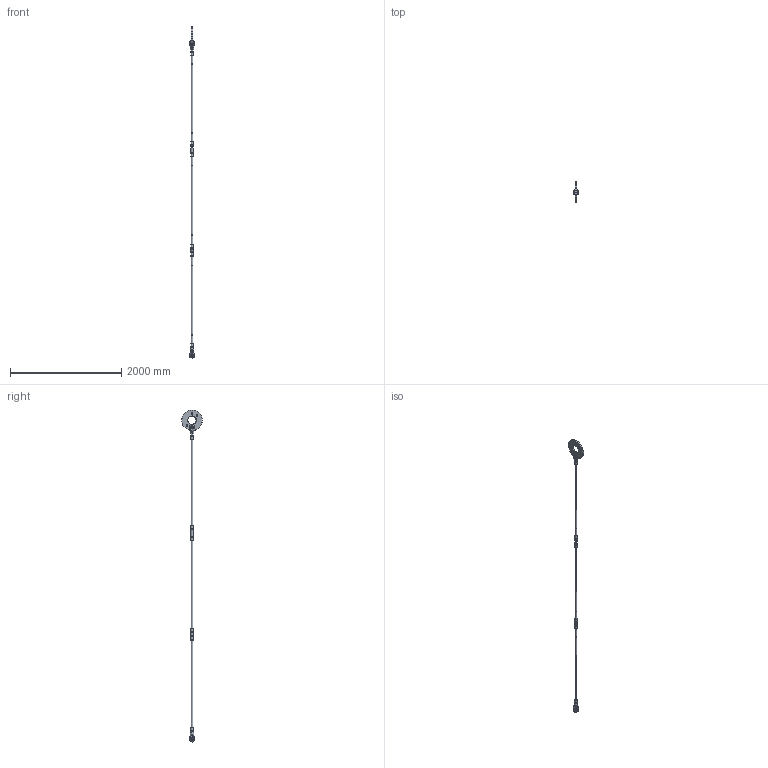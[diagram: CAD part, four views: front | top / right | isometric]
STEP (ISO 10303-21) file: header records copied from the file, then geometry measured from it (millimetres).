
FILE_DESCRIPTION(/* description */ (''),/* implementation_level */ '2;1');
FILE_NAME(/* name */ 'C:\Vault-WS\Anker\Werksnorm\Hochbau\ASDO-System\ASDO-S\System Komplett\Step\M 030.stp',/* time_stamp */ '2014-01-30T09:14:49+01:00',/* author */ ('ritgen'),/* organization */ (''),/* preprocessor_version */ 'ST-DEVELOPER v15.2',/* originating_system */ 'Autodesk Inventor 2014',/* authorisation */ '');
FILE_SCHEMA (('AUTOMOTIVE_DESIGN { 1 0 10303 214 3 1 1 }'));
Length unit declared in the file: millimetre
Products named in the file (11): ASDO-005756; ASDO-006536; ASDO-014320; DIN 7991 - M5x12 - 8.8; ASDO-013930; ASDO-001669; ASDO-001322; ASDO-001448; ASDO-013960; ASDO-014004; ASDO-013959
Bounding box: 79 x 369.65 x 5976.53 mm (x, y, z)
Volume: 7246471.2 mm3; surface area: 1046808.7 mm2
Topology: 20 solids, 20 shells, 465 faces, 994 edges, 608 vertices
Faces by surface type: plane 154, bspline 144, cylinder 79, cone 46, torus 42
Full cylindrical faces by diameter (mm): 4.134 x2, 5 x20, 5.8 x2, 10 x2, 26.211 x11, 30 x5, 32 x8, 33 x1, 33.5 x6, 40 x4, 42.2 x6, 48 x2, 150 x1, 370 x1
Entity records: 13894 total; most frequent: CARTESIAN_POINT 9521, DIRECTION 796, ORIENTED_EDGE 782, EDGE_CURVE 391, AXIS2_PLACEMENT_3D 359, EDGE_LOOP 324, VERTEX_POINT 273, ADVANCED_FACE 218
